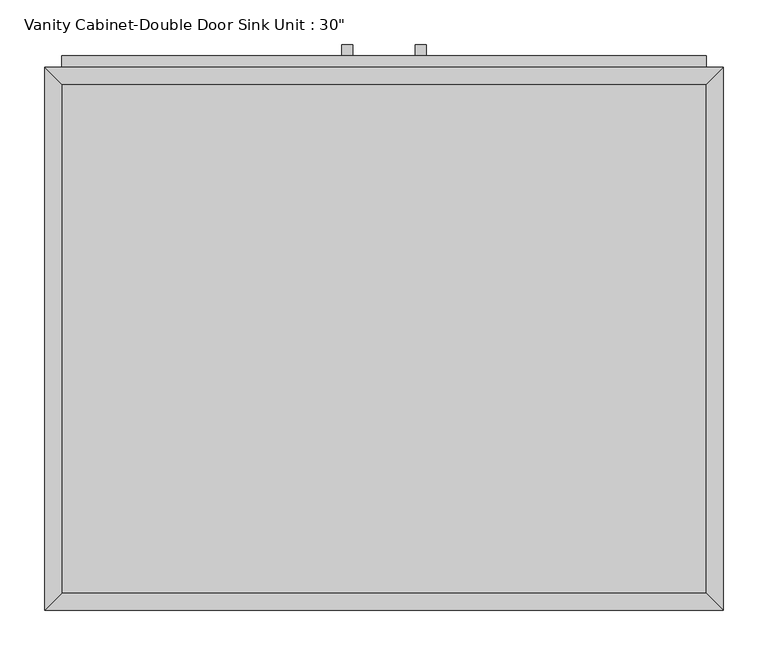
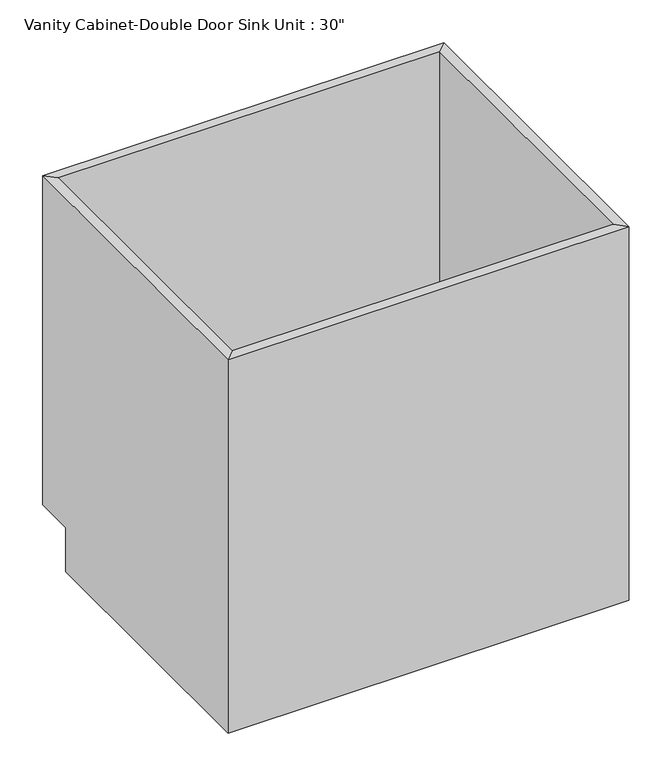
"""IFC4 building model written with IfcOpenShell, lengths in millimetres: furniture geometry."""

from ifc_helpers import new_model, si_unit, frame, origin, place, context, project, spatial, polyline, outline, extrude, faceted_brep, source, transform, mapped, element, save


def furniture_e487f748(model_context):
    return source(origin(), model_context, "Body", "SolidModel", [
        faceted_brep([(380.6877049, 590.55, 749.3), (-343.2122951, 590.55, 749.3), (-343.2122951, 590.55, 88.9), (380.6877049, 590.55, 88.9), (399.7377049, 609.6, 749.3), (-362.2622951, 609.6, 749.3), (399.7377049, 609.6, 88.9), (-362.2622951, 609.6, 88.9), (-343.2122951, 19.05, 749.3), (-343.2122951, 19.05, 88.9), (-343.2122951, 533.4, 88.9), (-362.2622951, 0.0, 749.3), (-362.2622951, 533.4, 88.9), (-362.2622951, 533.4, 0.0), (-362.2622951, 0.0, 0.0), (380.6877049, 19.05, 749.3), (380.6877049, 19.05, 88.9), (399.7377049, 0.0, 749.3), (399.7377049, 0.0, 0.0), (380.6877049, 533.4, 88.9), (399.7377049, 533.4, 0.0), (399.7377049, 533.4, 88.9)], [[[0, 1, 2, 3]], [[0, 4, 5, 1]], [[4, 6, 7, 5]], [[2, 7, 6, 3]], [[1, 8, 9, 10, 2]], [[5, 11, 8, 1]], [[7, 12, 13, 14, 11, 5]], [[2, 10, 12, 7]], [[8, 15, 16, 9]], [[11, 17, 15, 8]], [[14, 18, 17, 11]], [[3, 19, 16, 15, 0]], [[0, 15, 17, 4]], [[4, 17, 18, 20, 21, 6]], [[6, 21, 19, 3]], [[10, 9, 16, 19]], [[18, 14, 13, 20]], [[13, 12, 10, 19, 21, 20]]]),
        extrude(outline(polyline([(-16.1872951, 635.0), (-16.1872951, 622.3), (-28.8872951, 622.3), (-28.8872951, 635.0), (-16.1872951, 635.0)])), frame((0.0, 0.0, 446.769895), z_axis=(0.0, 0.0, 1.0), x_axis=(1.0, 0.0, 0.0)), (0.0, 0.0, 1.0), 124.730105),
        extrude(outline(polyline([(66.3627049, 635.0), (66.3627049, 622.3), (53.6627049, 622.3), (53.6627049, 635.0), (66.3627049, 635.0)])), frame((0.0, 0.0, 446.769895), z_axis=(0.0, 0.0, 1.0), x_axis=(1.0, 0.0, 0.0)), (0.0, 0.0, 1.0), 124.730105),
        extrude(outline(polyline([(380.6877049, 19.05), (-343.2122951, 19.05), (-343.2122951, 590.55), (380.6877049, 590.55), (380.6877049, 19.05)])), frame((0.0, 0.0, 88.9), z_axis=(0.0, 0.0, 1.0), x_axis=(1.0, 0.0, 0.0)), (0.0, 0.0, 1.0), 19.05),
        extrude(outline(polyline([(9.2127049, 622.3), (9.2127049, 609.6), (-343.2122951, 609.6), (-343.2122951, 622.3), (9.2127049, 622.3)])), frame((0.0, 0.0, 107.95), z_axis=(0.0, 0.0, 1.0), x_axis=(1.0, 0.0, 0.0)), (0.0, 0.0, 1.0), 501.65),
        extrude(outline(polyline([(380.6877049, 622.3), (380.6877049, 609.6), (28.2627049, 609.6), (28.2627049, 622.3), (380.6877049, 622.3)])), frame((0.0, 0.0, 107.95), z_axis=(0.0, 0.0, 1.0), x_axis=(1.0, 0.0, 0.0)), (0.0, 0.0, 1.0), 501.65),
        extrude(outline(polyline([(380.6877049, 622.3), (380.6877049, 609.6), (-343.2122951, 609.6), (-343.2122951, 622.3), (380.6877049, 622.3)])), frame((0.0, 0.0, 628.65), z_axis=(0.0, 0.0, 1.0), x_axis=(1.0, 0.0, 0.0)), (0.0, 0.0, 1.0), 101.6),
    ])


if __name__ == "__main__":
    model = new_model("IFC4")
    model_context = context("Model", 3, world=origin())
    ifc_project = project(units=[si_unit("LENGTHUNIT", "METRE", prefix="MILLI")], contexts=[model_context])
    site = spatial("IfcSite", under=ifc_project)
    building = spatial("IfcBuilding", under=site)
    placement = place(None, origin())
    furniture_shape = furniture_e487f748(model_context)
    element("IfcFurniture", 1, ObjectType="Vanity Cabinet-Double Door Sink Unit : 30\"", at=placement, inside=building, context=model_context, shape_type="MappedRepresentation", body=[
        mapped(furniture_shape, transform((0.0, 0.0, 0.0), x_axis=(1.0, 0.0, 0.0), y_axis=(0.0, 1.0, 0.0), z_axis=(0.0, 0.0, 1.0))),
    ])
    save(model, "model.ifc")
